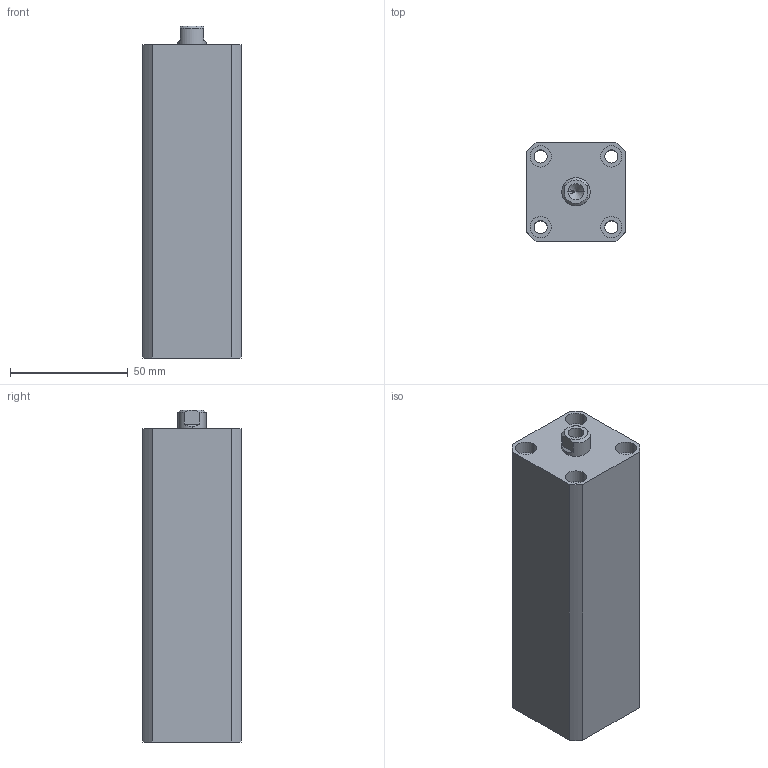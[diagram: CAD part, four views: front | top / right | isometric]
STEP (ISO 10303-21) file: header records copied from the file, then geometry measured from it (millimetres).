
FILE_DESCRIPTION (( 'STEP AP203' ), '1' );
FILE_NAME ('HTB-SDMB20-90N.STEP', '2019-10-09T00:10:37', ( '微软用户' ), ( '微软中国' ), 'SwSTEP 2.0', 'SolidWorks 2012', '' );
FILE_SCHEMA (( 'CONFIG_CONTROL_DESIGN' ));
Length unit declared in the file: millimetre
Products named in the file (3): HTB-SDMB20-90N; HTB-SDMB20-90N活塞杆; HTB-SDMB20-90掛极
Assembly tree (2 placements, depth 2):
  HTB-SDMB20-90N
    HTB-SDMB20-90掛极
    HTB-SDMB20-90N活塞杆
Bounding box: 42 x 42 x 141 mm (x, y, z)
Volume: 197709.1 mm3; surface area: 48422.2 mm2
Topology: 2 solids, 2 shells, 136 faces, 326 edges, 213 vertices
Faces by surface type: plane 64, cylinder 46, bspline 16, torus 6, cone 4
Entity records: 5023 total; most frequent: CARTESIAN_POINT 1570, ORIENTED_EDGE 648, DIRECTION 640, EDGE_CURVE 324, AXIS2_PLACEMENT_3D 231, VERTEX_POINT 213, LINE 178, VECTOR 178
